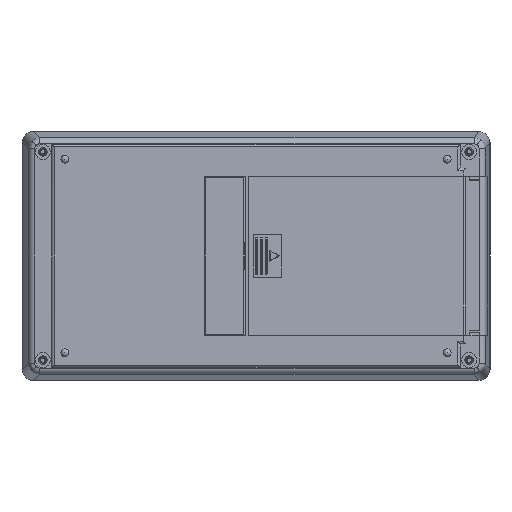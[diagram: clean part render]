
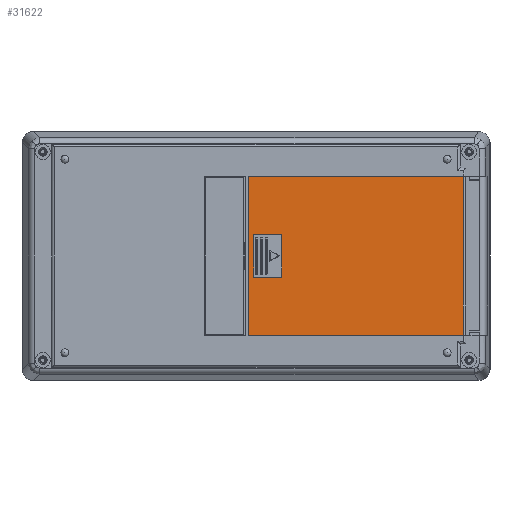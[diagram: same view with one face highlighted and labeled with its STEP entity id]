
A CAD part, front view. The second image highlights one B-rep face of the part: STEP entity #31622.
In plain terms, the highlighted planar face has unit normal (0, -1, 0).
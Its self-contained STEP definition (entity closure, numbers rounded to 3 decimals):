
#28 = CARTESIAN_POINT ( 'NONE',  ( 27.2, 0., 8.75 ) ) ;
#221 = VECTOR ( 'NONE', #2261, 1000. ) ;
#574 = CARTESIAN_POINT ( 'NONE',  ( 112.7, 0., -32.4 ) ) ;
#1180 = VERTEX_POINT ( 'NONE', #23065 ) ;
#1666 = PLANE ( 'NONE',  #13268 ) ;
#1693 = ORIENTED_EDGE ( 'NONE', *, *, #33415, .T. ) ;
#1954 = LINE ( 'NONE', #18374, #24835 ) ;
#2102 = ORIENTED_EDGE ( 'NONE', *, *, #3741, .F. ) ;
#2261 = DIRECTION ( 'NONE',  ( 1., 0., 0. ) ) ;
#2540 = CARTESIAN_POINT ( 'NONE',  ( 25.2, 0., 32.4 ) ) ;
#3133 = EDGE_CURVE ( 'NONE', #25486, #29691, #30491, .T. ) ;
#3651 = EDGE_CURVE ( 'NONE', #29691, #3754, #36583, .T. ) ;
#3741 = EDGE_CURVE ( 'NONE', #12351, #1180, #1954, .T. ) ;
#3754 = VERTEX_POINT ( 'NONE', #574 ) ;
#3882 = EDGE_CURVE ( 'NONE', #25486, #17492, #37028, .T. ) ;
#4251 = CARTESIAN_POINT ( 'NONE',  ( 25.2, 0., 32.4 ) ) ;
#4265 = EDGE_CURVE ( 'NONE', #1180, #22331, #34864, .T. ) ;
#4781 = VECTOR ( 'NONE', #13947, 1000. ) ;
#4867 = CARTESIAN_POINT ( 'NONE',  ( 27.2, 0., 8.75 ) ) ;
#4929 = LINE ( 'NONE', #8605, #18965 ) ;
#7295 = ORIENTED_EDGE ( 'NONE', *, *, #9443, .F. ) ;
#7687 = DIRECTION ( 'NONE',  ( 0., 1., 0. ) ) ;
#7830 = VECTOR ( 'NONE', #26956, 1000. ) ;
#8605 = CARTESIAN_POINT ( 'NONE',  ( 25.2, 0., -32.4 ) ) ;
#9443 = EDGE_CURVE ( 'NONE', #22331, #32521, #15803, .T. ) ;
#10151 = ORIENTED_EDGE ( 'NONE', *, *, #3651, .F. ) ;
#10221 = FACE_BOUND ( 'NONE', #21955, .T. ) ;
#10269 = DIRECTION ( 'NONE',  ( 0., 0., -1. ) ) ;
#10791 = CARTESIAN_POINT ( 'NONE',  ( 112.7, 0., 32.4 ) ) ;
#11606 = DIRECTION ( 'NONE',  ( 1., 0., 0. ) ) ;
#12351 = VERTEX_POINT ( 'NONE', #29744 ) ;
#12473 = DIRECTION ( 'NONE',  ( 0., 0., 1. ) ) ;
#13268 = AXIS2_PLACEMENT_3D ( 'NONE', #31440, #7687, #28551 ) ;
#13305 = CARTESIAN_POINT ( 'NONE',  ( 38.7, 0., 8.75 ) ) ;
#13769 = CARTESIAN_POINT ( 'NONE',  ( 25.2, 0., -32.4 ) ) ;
#13947 = DIRECTION ( 'NONE',  ( 0., 0., -1. ) ) ;
#15599 = VECTOR ( 'NONE', #17920, 1000. ) ;
#15803 = LINE ( 'NONE', #28, #7830 ) ;
#17492 = VERTEX_POINT ( 'NONE', #13769 ) ;
#17920 = DIRECTION ( 'NONE',  ( 1., 0., 0. ) ) ;
#18374 = CARTESIAN_POINT ( 'NONE',  ( 38.7, 0., 8.75 ) ) ;
#18965 = VECTOR ( 'NONE', #11606, 1000. ) ;
#19150 = EDGE_LOOP ( 'NONE', ( #1693, #10151, #28363, #21870 ) ) ;
#21870 = ORIENTED_EDGE ( 'NONE', *, *, #3882, .T. ) ;
#21955 = EDGE_LOOP ( 'NONE', ( #31537, #2102, #35793, #7295 ) ) ;
#21968 = EDGE_CURVE ( 'NONE', #32521, #12351, #32046, .T. ) ;
#22331 = VERTEX_POINT ( 'NONE', #4867 ) ;
#23065 = CARTESIAN_POINT ( 'NONE',  ( 38.7, 0., 8.75 ) ) ;
#23162 = CARTESIAN_POINT ( 'NONE',  ( 38.7, 0., -8.75 ) ) ;
#24835 = VECTOR ( 'NONE', #12473, 1000. ) ;
#25145 = DIRECTION ( 'NONE',  ( -1., 0., 0. ) ) ;
#25486 = VERTEX_POINT ( 'NONE', #2540 ) ;
#26858 = VECTOR ( 'NONE', #25145, 1000. ) ;
#26956 = DIRECTION ( 'NONE',  ( 0., 0., -1. ) ) ;
#28363 = ORIENTED_EDGE ( 'NONE', *, *, #3133, .F. ) ;
#28551 = DIRECTION ( 'NONE',  ( 0., 0., 1. ) ) ;
#29691 = VERTEX_POINT ( 'NONE', #38295 ) ;
#29744 = CARTESIAN_POINT ( 'NONE',  ( 38.7, 0., -8.75 ) ) ;
#30491 = LINE ( 'NONE', #35816, #15599 ) ;
#31440 = CARTESIAN_POINT ( 'NONE',  ( 25.2, 0., 32.4 ) ) ;
#31537 = ORIENTED_EDGE ( 'NONE', *, *, #4265, .F. ) ;
#31622 = ADVANCED_FACE ( 'NONE', ( #10221, #33096 ), #1666, .F. ) ;
#32046 = LINE ( 'NONE', #23162, #221 ) ;
#32521 = VERTEX_POINT ( 'NONE', #33203 ) ;
#33096 = FACE_OUTER_BOUND ( 'NONE', #19150, .T. ) ;
#33203 = CARTESIAN_POINT ( 'NONE',  ( 27.2, 0., -8.75 ) ) ;
#33415 = EDGE_CURVE ( 'NONE', #17492, #3754, #4929, .T. ) ;
#34864 = LINE ( 'NONE', #13305, #26858 ) ;
#35793 = ORIENTED_EDGE ( 'NONE', *, *, #21968, .F. ) ;
#35816 = CARTESIAN_POINT ( 'NONE',  ( 25.2, 0., 32.4 ) ) ;
#36076 = VECTOR ( 'NONE', #10269, 1000. ) ;
#36583 = LINE ( 'NONE', #10791, #4781 ) ;
#37028 = LINE ( 'NONE', #4251, #36076 ) ;
#38295 = CARTESIAN_POINT ( 'NONE',  ( 112.7, 0., 32.4 ) ) ;
